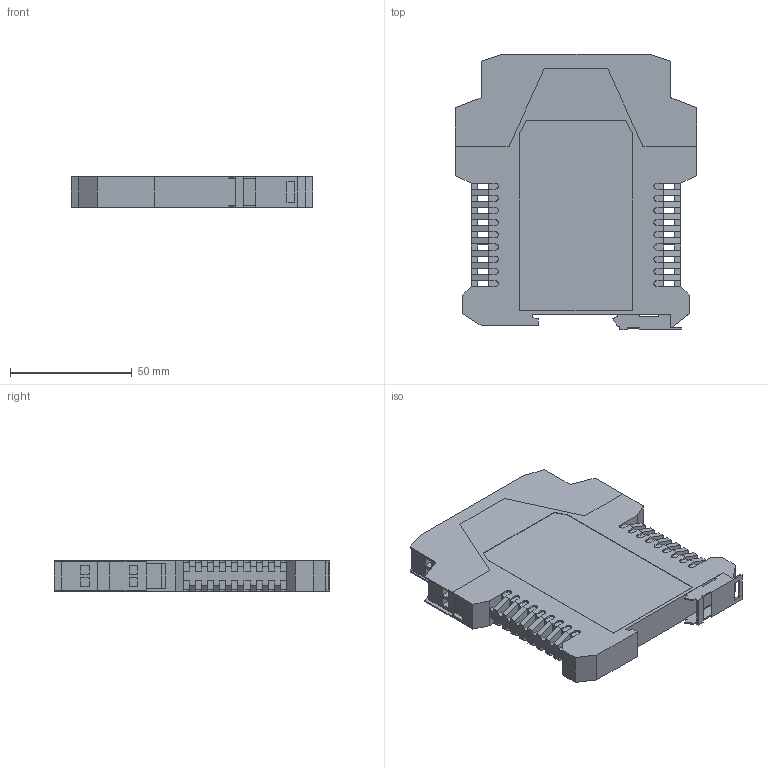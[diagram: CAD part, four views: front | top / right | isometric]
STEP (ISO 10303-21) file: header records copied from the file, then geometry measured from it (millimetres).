
FILE_DESCRIPTION (( 'STEP AP214' ), '1' );
FILE_NAME ('KR_PP210_S.STEP', '2019-11-25T15:49:00', ( '' ), ( '' ), 'SwSTEP 2.0', 'SolidWorks 2013', '' );
FILE_SCHEMA (( 'AUTOMOTIVE_DESIGN' ));
Length unit declared in the file: millimetre
Products named in the file (10): sroub; bok; V_isol; svorka2; Sestava svorka zelena; zapatka; D璱5; orange; Nap_isol_pp210_s; KR_PP210_S
Assembly tree (15 placements, depth 3):
  KR_PP210_S
    D璱5
    V_isol
    bok  x2
    zapatka
    orange  x2
    Sestava svorka zelena  x4
      svorka2
      sroub
    Nap_isol_pp210_s
Bounding box: 99 x 113.3 x 12.5 mm (x, y, z)
Volume: 111104.7 mm3; surface area: 39215.3 mm2
Topology: 30 solids, 30 shells, 809 faces, 2188 edges, 1455 vertices
Faces by surface type: plane 646, cylinder 86, bspline 77
Entity records: 23303 total; most frequent: CARTESIAN_POINT 7951, ORIENTED_EDGE 3260, DIRECTION 2657, EDGE_CURVE 1630, VECTOR 1351, LINE 1351, VERTEX_POINT 1083, AXIS2_PLACEMENT_3D 653
